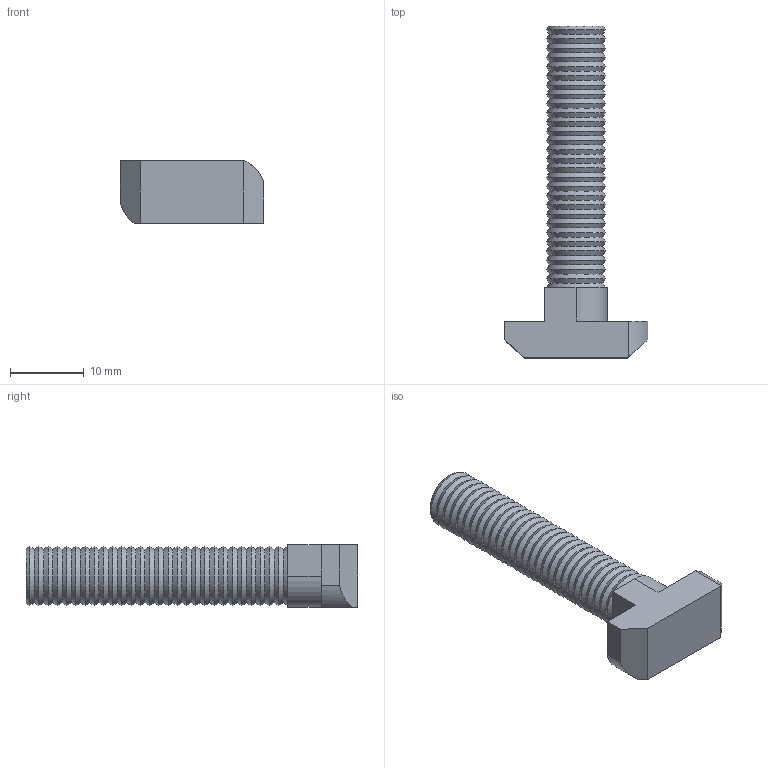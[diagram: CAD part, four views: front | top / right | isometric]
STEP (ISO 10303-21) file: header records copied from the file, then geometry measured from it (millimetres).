
FILE_DESCRIPTION((''),'2;1');
FILE_NAME('E:\catalogue and flyer\Profile catalogue 2015\Accessories JE info\Accessories-JE step file 31MAr16\JE-HH8x40-10.stp','2016-03-31T15:58:25',('h029'),(''),'Autodesk Inventor 11','Autodesk Inventor 11','');
FILE_SCHEMA(('AUTOMOTIVE_DESIGN { 1 0 10303 214 1 1 1 1 }'));
Length unit declared in the file: millimetre
Products named in the file (1): JE-HH8x40-10
Bounding box: 19.5 x 45 x 8.5 mm (x, y, z)
Volume: 2674.2 mm3; surface area: 1668.6 mm2
Topology: 1 solids, 1 shells, 74 faces, 159 edges, 88 vertices
Faces by surface type: cone 57, plane 13, cylinder 4
Entity records: 1677 total; most frequent: DIRECTION 316, CARTESIAN_POINT 261, ORIENTED_EDGE 200, AXIS2_PLACEMENT_3D 141, EDGE_LOOP 132, EDGE_CURVE 100, VERTEX_POINT 86, FACE_OUTER_BOUND 74
